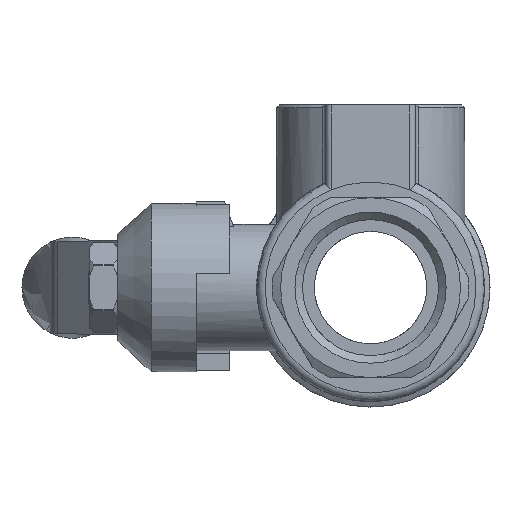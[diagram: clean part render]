
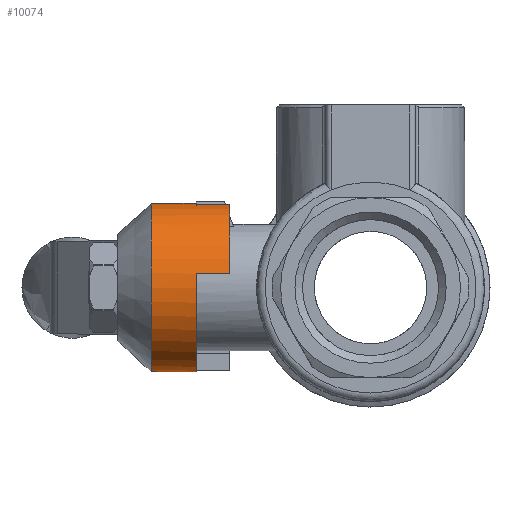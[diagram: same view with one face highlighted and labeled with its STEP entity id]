
A CAD part, left-side view. The second image highlights one B-rep face of the part: STEP entity #10074.
In plain terms, the highlighted cylindrical face has radius 15 mm (diameter 30 mm), a full revolution.
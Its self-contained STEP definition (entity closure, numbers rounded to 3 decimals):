
#201=B_SPLINE_CURVE_WITH_KNOTS('',3,(#16493,#16494,#16495,#16496,#16497,
#16498),.UNSPECIFIED.,.F.,.F.,(4,2,4),(0.22,0.224,
0.225),.UNSPECIFIED.);
#204=B_SPLINE_CURVE_WITH_KNOTS('',3,(#16612,#16613,#16614,#16615,#16616,
#16617),.UNSPECIFIED.,.F.,.F.,(4,2,4),(0.565,0.567,
0.571),.UNSPECIFIED.);
#525=ELLIPSE('',#10835,22.578,15.);
#526=ELLIPSE('',#10836,20.069,15.);
#527=ELLIPSE('',#10838,20.069,15.);
#528=ELLIPSE('',#10839,22.578,15.);
#652=CYLINDRICAL_SURFACE('',#10825,15.);
#869=CIRCLE('',#10826,15.);
#870=CIRCLE('',#10827,15.);
#871=CIRCLE('',#10828,15.);
#872=CIRCLE('',#10829,15.);
#873=CIRCLE('',#10830,15.);
#874=CIRCLE('',#10831,15.);
#875=CIRCLE('',#10832,15.);
#876=CIRCLE('',#10833,15.);
#877=CIRCLE('',#10834,15.);
#878=CIRCLE('',#10837,15.);
#1549=FACE_OUTER_BOUND('',#2138,.T.);
#2138=EDGE_LOOP('',(#7617,#7618,#7619,#7620,#7621,#7622,#7623,#7624,#7625,
#7626,#7627,#7628,#7629,#7630,#7631,#7632,#7633,#7634,#7635,#7636,#7637,
#7638,#7639,#7640));
#2920=LINE('',#16822,#3574);
#2921=LINE('',#16826,#3575);
#2922=LINE('',#16830,#3576);
#2923=LINE('',#16834,#3577);
#2924=LINE('',#16838,#3578);
#2925=LINE('',#16850,#3579);
#2926=LINE('',#16854,#3580);
#3574=VECTOR('',#12641,15.);
#3575=VECTOR('',#12644,10.);
#3576=VECTOR('',#12647,10.);
#3577=VECTOR('',#12650,10.);
#3578=VECTOR('',#12653,10.);
#3579=VECTOR('',#12666,10.);
#3580=VECTOR('',#12669,10.);
#4250=VERTEX_POINT('',#16481);
#4253=VERTEX_POINT('',#16491);
#4263=VERTEX_POINT('',#16610);
#4264=VERTEX_POINT('',#16611);
#4284=VERTEX_POINT('',#16819);
#4285=VERTEX_POINT('',#16821);
#4286=VERTEX_POINT('',#16823);
#4287=VERTEX_POINT('',#16825);
#4288=VERTEX_POINT('',#16827);
#4289=VERTEX_POINT('',#16829);
#4290=VERTEX_POINT('',#16831);
#4291=VERTEX_POINT('',#16833);
#4292=VERTEX_POINT('',#16835);
#4293=VERTEX_POINT('',#16837);
#4294=VERTEX_POINT('',#16839);
#4295=VERTEX_POINT('',#16841);
#4296=VERTEX_POINT('',#16845);
#4297=VERTEX_POINT('',#16847);
#4298=VERTEX_POINT('',#16849);
#4299=VERTEX_POINT('',#16851);
#4300=VERTEX_POINT('',#16853);
#4301=VERTEX_POINT('',#16855);
#5486=EDGE_CURVE('',#4250,#4253,#201,.T.);
#5498=EDGE_CURVE('',#4263,#4264,#204,.T.);
#5533=EDGE_CURVE('',#4284,#4264,#869,.T.);
#5534=EDGE_CURVE('',#4284,#4285,#2920,.T.);
#5535=EDGE_CURVE('',#4285,#4286,#870,.T.);
#5536=EDGE_CURVE('',#4286,#4287,#2921,.T.);
#5537=EDGE_CURVE('',#4288,#4287,#871,.T.);
#5538=EDGE_CURVE('',#4289,#4288,#2922,.T.);
#5539=EDGE_CURVE('',#4289,#4290,#872,.T.);
#5540=EDGE_CURVE('',#4290,#4291,#2923,.T.);
#5541=EDGE_CURVE('',#4292,#4291,#873,.T.);
#5542=EDGE_CURVE('',#4293,#4292,#2924,.T.);
#5543=EDGE_CURVE('',#4293,#4294,#874,.T.);
#5544=EDGE_CURVE('',#4295,#4294,#875,.T.);
#5545=EDGE_CURVE('',#4295,#4285,#876,.T.);
#5546=EDGE_CURVE('',#4250,#4284,#877,.T.);
#5547=EDGE_CURVE('',#4296,#4253,#525,.T.);
#5548=EDGE_CURVE('',#4297,#4296,#526,.T.);
#5549=EDGE_CURVE('',#4298,#4297,#2925,.T.);
#5550=EDGE_CURVE('',#4299,#4298,#878,.T.);
#5551=EDGE_CURVE('',#4300,#4299,#2926,.T.);
#5552=EDGE_CURVE('',#4301,#4300,#527,.T.);
#5553=EDGE_CURVE('',#4263,#4301,#528,.T.);
#7617=ORIENTED_EDGE('',*,*,#5498,.T.);
#7618=ORIENTED_EDGE('',*,*,#5533,.F.);
#7619=ORIENTED_EDGE('',*,*,#5534,.T.);
#7620=ORIENTED_EDGE('',*,*,#5535,.T.);
#7621=ORIENTED_EDGE('',*,*,#5536,.T.);
#7622=ORIENTED_EDGE('',*,*,#5537,.F.);
#7623=ORIENTED_EDGE('',*,*,#5538,.F.);
#7624=ORIENTED_EDGE('',*,*,#5539,.T.);
#7625=ORIENTED_EDGE('',*,*,#5540,.T.);
#7626=ORIENTED_EDGE('',*,*,#5541,.F.);
#7627=ORIENTED_EDGE('',*,*,#5542,.F.);
#7628=ORIENTED_EDGE('',*,*,#5543,.T.);
#7629=ORIENTED_EDGE('',*,*,#5544,.F.);
#7630=ORIENTED_EDGE('',*,*,#5545,.T.);
#7631=ORIENTED_EDGE('',*,*,#5534,.F.);
#7632=ORIENTED_EDGE('',*,*,#5546,.F.);
#7633=ORIENTED_EDGE('',*,*,#5486,.T.);
#7634=ORIENTED_EDGE('',*,*,#5547,.F.);
#7635=ORIENTED_EDGE('',*,*,#5548,.F.);
#7636=ORIENTED_EDGE('',*,*,#5549,.F.);
#7637=ORIENTED_EDGE('',*,*,#5550,.F.);
#7638=ORIENTED_EDGE('',*,*,#5551,.F.);
#7639=ORIENTED_EDGE('',*,*,#5552,.F.);
#7640=ORIENTED_EDGE('',*,*,#5553,.F.);
#10074=ADVANCED_FACE('',(#1549),#652,.T.);
#10825=AXIS2_PLACEMENT_3D('',#16818,#12637,#12638);
#10826=AXIS2_PLACEMENT_3D('',#16820,#12639,#12640);
#10827=AXIS2_PLACEMENT_3D('',#16824,#12642,#12643);
#10828=AXIS2_PLACEMENT_3D('',#16828,#12645,#12646);
#10829=AXIS2_PLACEMENT_3D('',#16832,#12648,#12649);
#10830=AXIS2_PLACEMENT_3D('',#16836,#12651,#12652);
#10831=AXIS2_PLACEMENT_3D('',#16840,#12654,#12655);
#10832=AXIS2_PLACEMENT_3D('',#16842,#12656,#12657);
#10833=AXIS2_PLACEMENT_3D('',#16843,#12658,#12659);
#10834=AXIS2_PLACEMENT_3D('',#16844,#12660,#12661);
#10835=AXIS2_PLACEMENT_3D('',#16846,#12662,#12663);
#10836=AXIS2_PLACEMENT_3D('',#16848,#12664,#12665);
#10837=AXIS2_PLACEMENT_3D('',#16852,#12667,#12668);
#10838=AXIS2_PLACEMENT_3D('',#16856,#12670,#12671);
#10839=AXIS2_PLACEMENT_3D('',#16857,#12672,#12673);
#12637=DIRECTION('center_axis',(0.,1.,0.));
#12638=DIRECTION('ref_axis',(-1.,0.,0.));
#12639=DIRECTION('center_axis',(0.,1.,0.));
#12640=DIRECTION('ref_axis',(1.,0.,0.));
#12641=DIRECTION('',(0.,-1.,0.));
#12642=DIRECTION('center_axis',(0.,1.,0.));
#12643=DIRECTION('ref_axis',(1.,0.,0.));
#12644=DIRECTION('',(0.,-1.,0.));
#12645=DIRECTION('center_axis',(0.,-1.,0.));
#12646=DIRECTION('ref_axis',(0.167,0.,-0.986));
#12647=DIRECTION('',(0.,-1.,0.));
#12648=DIRECTION('center_axis',(0.,1.,0.));
#12649=DIRECTION('ref_axis',(1.,0.,0.));
#12650=DIRECTION('',(0.,-1.,0.));
#12651=DIRECTION('center_axis',(0.,-1.,0.));
#12652=DIRECTION('ref_axis',(-0.184,0.,0.983));
#12653=DIRECTION('',(0.,-1.,0.));
#12654=DIRECTION('center_axis',(0.,1.,0.));
#12655=DIRECTION('ref_axis',(1.,0.,0.));
#12656=DIRECTION('center_axis',(0.,-1.,0.));
#12657=DIRECTION('ref_axis',(-1.,0.,0.));
#12658=DIRECTION('center_axis',(0.,1.,0.));
#12659=DIRECTION('ref_axis',(1.,0.,0.));
#12660=DIRECTION('center_axis',(0.,1.,0.));
#12661=DIRECTION('ref_axis',(1.,0.,0.));
#12662=DIRECTION('center_axis',(-0.747,-0.664,0.));
#12663=DIRECTION('ref_axis',(-0.664,0.747,0.));
#12664=DIRECTION('center_axis',(-0.664,0.747,0.));
#12665=DIRECTION('ref_axis',(-0.747,-0.664,0.));
#12666=DIRECTION('',(0.,-1.,0.));
#12667=DIRECTION('center_axis',(0.,1.,0.));
#12668=DIRECTION('ref_axis',(1.,0.,0.));
#12669=DIRECTION('',(0.,1.,0.));
#12670=DIRECTION('center_axis',(-0.664,0.747,0.));
#12671=DIRECTION('ref_axis',(-0.747,-0.664,0.));
#12672=DIRECTION('center_axis',(-0.747,-0.664,0.));
#12673=DIRECTION('ref_axis',(-0.664,0.747,0.));
#16481=CARTESIAN_POINT('',(14.198,39.,4.84));
#16491=CARTESIAN_POINT('',(14.215,38.979,4.789));
#16493=CARTESIAN_POINT('Ctrl Pts',(14.198,39.,4.84));
#16494=CARTESIAN_POINT('Ctrl Pts',(14.202,38.995,4.829));
#16495=CARTESIAN_POINT('Ctrl Pts',(14.206,38.99,4.817));
#16496=CARTESIAN_POINT('Ctrl Pts',(14.211,38.983,4.8));
#16497=CARTESIAN_POINT('Ctrl Pts',(14.213,38.981,4.795));
#16498=CARTESIAN_POINT('Ctrl Pts',(14.215,38.979,4.789));
#16610=CARTESIAN_POINT('',(14.215,38.979,-4.789));
#16611=CARTESIAN_POINT('',(14.198,39.,-4.84));
#16612=CARTESIAN_POINT('Ctrl Pts',(14.215,38.979,-4.789));
#16613=CARTESIAN_POINT('Ctrl Pts',(14.213,38.981,-4.795));
#16614=CARTESIAN_POINT('Ctrl Pts',(14.211,38.983,-4.8));
#16615=CARTESIAN_POINT('Ctrl Pts',(14.206,38.99,-4.817));
#16616=CARTESIAN_POINT('Ctrl Pts',(14.202,38.995,-4.829));
#16617=CARTESIAN_POINT('Ctrl Pts',(14.198,39.,-4.84));
#16818=CARTESIAN_POINT('Origin',(0.,35.,0.));
#16819=CARTESIAN_POINT('',(15.,39.,0.));
#16820=CARTESIAN_POINT('Origin',(0.,39.,
0.));
#16821=CARTESIAN_POINT('',(15.,31.,0.));
#16822=CARTESIAN_POINT('',(15.,35.,0.));
#16823=CARTESIAN_POINT('',(14.79,31.,-2.5));
#16824=CARTESIAN_POINT('Origin',(0.,31.,
0.));
#16825=CARTESIAN_POINT('',(14.79,25.,-2.5));
#16826=CARTESIAN_POINT('',(14.79,31.,-2.5));
#16827=CARTESIAN_POINT('',(2.5,25.,-14.79));
#16828=CARTESIAN_POINT('Origin',(0.,25.,
0.));
#16829=CARTESIAN_POINT('',(2.5,31.,-14.79));
#16830=CARTESIAN_POINT('',(2.5,31.,-14.79));
#16831=CARTESIAN_POINT('',(-14.79,31.,2.5));
#16832=CARTESIAN_POINT('Origin',(0.,31.,
0.));
#16833=CARTESIAN_POINT('',(-14.79,25.,2.5));
#16834=CARTESIAN_POINT('',(-14.79,31.,2.5));
#16835=CARTESIAN_POINT('',(-2.766,25.,14.743));
#16836=CARTESIAN_POINT('Origin',(0.,25.,
0.));
#16837=CARTESIAN_POINT('',(-2.766,31.,14.743));
#16838=CARTESIAN_POINT('',(-2.766,31.,14.743));
#16839=CARTESIAN_POINT('',(-2.527,31.,14.786));
#16840=CARTESIAN_POINT('Origin',(0.,31.,
0.));
#16841=CARTESIAN_POINT('',(2.527,31.,14.786));
#16842=CARTESIAN_POINT('Origin',(0.,31.,
0.));
#16843=CARTESIAN_POINT('Origin',(0.,31.,
0.));
#16844=CARTESIAN_POINT('Origin',(0.,39.,
0.));
#16845=CARTESIAN_POINT('',(14.238,38.952,4.72));
#16846=CARTESIAN_POINT('Origin',(0.,54.97,
0.));
#16847=CARTESIAN_POINT('',(12.466,37.377,8.343));
#16848=CARTESIAN_POINT('Origin',(0.,26.296,
0.));
#16849=CARTESIAN_POINT('',(12.466,39.,8.343));
#16850=CARTESIAN_POINT('',(12.466,35.,8.343));
#16851=CARTESIAN_POINT('',(12.466,39.,-8.343));
#16852=CARTESIAN_POINT('Origin',(0.,39.,
0.));
#16853=CARTESIAN_POINT('',(12.466,37.377,-8.343));
#16854=CARTESIAN_POINT('',(12.466,35.,-8.343));
#16855=CARTESIAN_POINT('',(14.238,38.952,-4.72));
#16856=CARTESIAN_POINT('Origin',(0.,26.296,
0.));
#16857=CARTESIAN_POINT('Origin',(0.,54.97,
0.));
